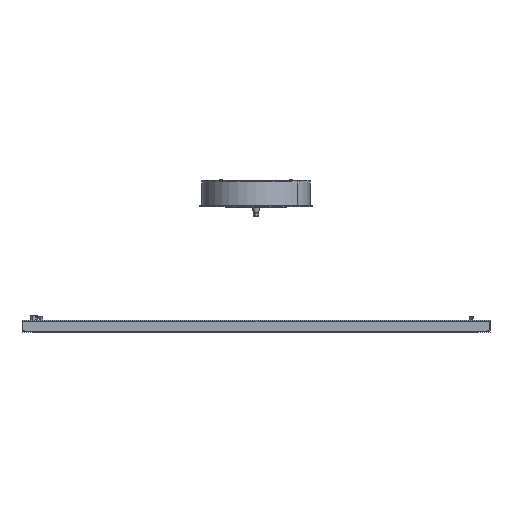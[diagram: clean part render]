
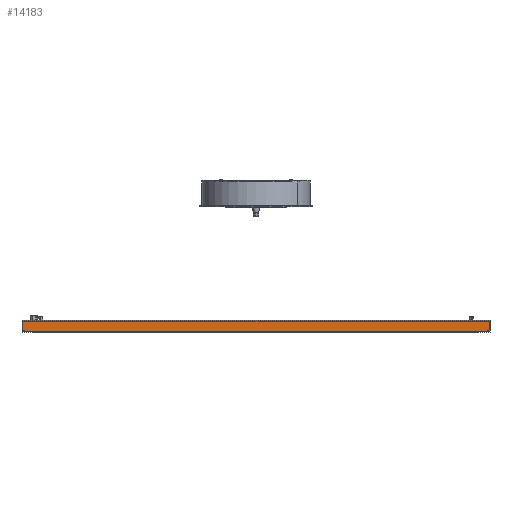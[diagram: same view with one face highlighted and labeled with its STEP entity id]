
A CAD part, left-side view. The second image highlights one B-rep face of the part: STEP entity #14183.
In plain terms, the highlighted planar face has unit normal (-1, 0, 0).
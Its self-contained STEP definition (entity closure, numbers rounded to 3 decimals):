
#284 = CARTESIAN_POINT ( 'NONE',  ( -497.5, 497.5, 12.5 ) ) ;
#1633 = DIRECTION ( 'NONE',  ( 1., 0., 0. ) ) ;
#1995 = PLANE ( 'NONE',  #8027 ) ;
#2951 = LINE ( 'NONE', #6553, #4138 ) ;
#4138 = VECTOR ( 'NONE', #14100, 1000. ) ;
#4540 = EDGE_CURVE ( 'NONE', #4711, #6495, #2951, .T. ) ;
#4676 = DIRECTION ( 'NONE',  ( 0., 0., -1. ) ) ;
#4711 = VERTEX_POINT ( 'NONE', #6044 ) ;
#5762 = ORIENTED_EDGE ( 'NONE', *, *, #15738, .F. ) ;
#6044 = CARTESIAN_POINT ( 'NONE',  ( -497.5, 497.5, -12.5 ) ) ;
#6495 = VERTEX_POINT ( 'NONE', #16959 ) ;
#6553 = CARTESIAN_POINT ( 'NONE',  ( -497.5, -497.5, -12.5 ) ) ;
#7915 = EDGE_LOOP ( 'NONE', ( #13924, #5762, #23656, #15496 ) ) ;
#7989 = VERTEX_POINT ( 'NONE', #284 ) ;
#8027 = AXIS2_PLACEMENT_3D ( 'NONE', #14630, #1633, #13279 ) ;
#9477 = LINE ( 'NONE', #19021, #11274 ) ;
#9701 = VERTEX_POINT ( 'NONE', #19203 ) ;
#9847 = DIRECTION ( 'NONE',  ( 0., -1., 0. ) ) ;
#11052 = FACE_OUTER_BOUND ( 'NONE', #7915, .T. ) ;
#11274 = VECTOR ( 'NONE', #9847, 1000. ) ;
#11813 = DIRECTION ( 'NONE',  ( 0., 0., -1. ) ) ;
#12351 = LINE ( 'NONE', #21886, #13685 ) ;
#13254 = VECTOR ( 'NONE', #11813, 1000. ) ;
#13279 = DIRECTION ( 'NONE',  ( 0., 0., -1. ) ) ;
#13685 = VECTOR ( 'NONE', #4676, 1000. ) ;
#13924 = ORIENTED_EDGE ( 'NONE', *, *, #4540, .T. ) ;
#14100 = DIRECTION ( 'NONE',  ( 0., -1., 0. ) ) ;
#14183 = ADVANCED_FACE ( 'NONE', ( #11052 ), #1995, .F. ) ;
#14630 = CARTESIAN_POINT ( 'NONE',  ( -497.5, -497.5, 12.5 ) ) ;
#15496 = ORIENTED_EDGE ( 'NONE', *, *, #18102, .T. ) ;
#15572 = EDGE_CURVE ( 'NONE', #7989, #9701, #9477, .T. ) ;
#15738 = EDGE_CURVE ( 'NONE', #9701, #6495, #23558, .T. ) ;
#16959 = CARTESIAN_POINT ( 'NONE',  ( -497.5, -497.5, -12.5 ) ) ;
#18102 = EDGE_CURVE ( 'NONE', #7989, #4711, #12351, .T. ) ;
#19021 = CARTESIAN_POINT ( 'NONE',  ( -497.5, -497.5, 12.5 ) ) ;
#19203 = CARTESIAN_POINT ( 'NONE',  ( -497.5, -497.5, 12.5 ) ) ;
#21360 = CARTESIAN_POINT ( 'NONE',  ( -497.5, -497.5, 12.5 ) ) ;
#21886 = CARTESIAN_POINT ( 'NONE',  ( -497.5, 497.5, 12.5 ) ) ;
#23558 = LINE ( 'NONE', #21360, #13254 ) ;
#23656 = ORIENTED_EDGE ( 'NONE', *, *, #15572, .F. ) ;
